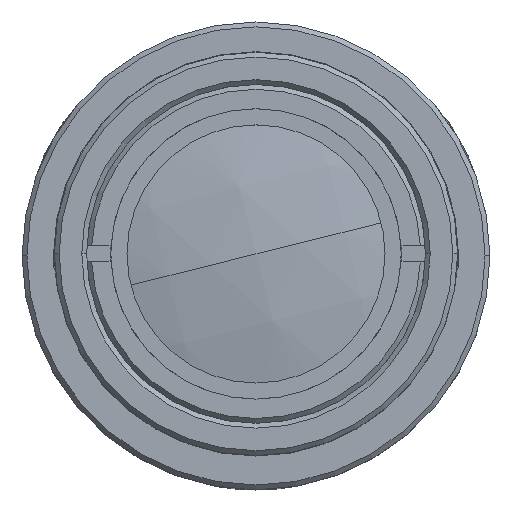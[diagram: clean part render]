
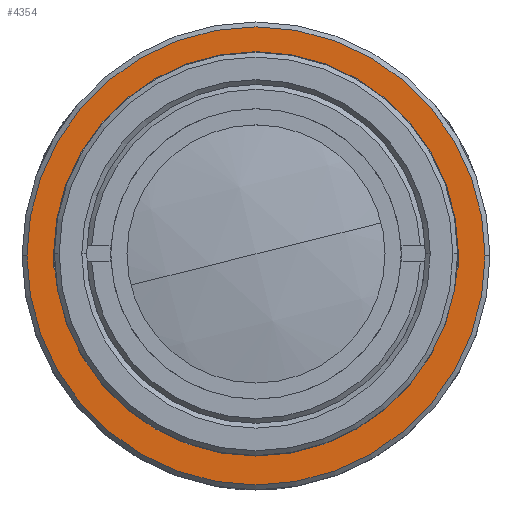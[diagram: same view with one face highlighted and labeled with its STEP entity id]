
A CAD part, top view. The second image highlights one B-rep face of the part: STEP entity #4354.
In plain terms, the highlighted planar face has unit normal (0, 0, 1).
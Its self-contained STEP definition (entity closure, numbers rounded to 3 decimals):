
#2587 = EDGE_CURVE('',#2588,#2590,#2592,.T.);
#2588 = VERTEX_POINT('',#2589);
#2589 = CARTESIAN_POINT('',(14.2,0.,24.026));
#2590 = VERTEX_POINT('',#2591);
#2591 = CARTESIAN_POINT('',(-14.2,0.,24.026));
#2592 = SURFACE_CURVE('',#2593,(#2598,#2610),.PCURVE_S1.);
#2593 = CIRCLE('',#2594,14.2);
#2594 = AXIS2_PLACEMENT_3D('',#2595,#2596,#2597);
#2595 = CARTESIAN_POINT('',(0.,0.,24.026));
#2596 = DIRECTION('',(0.,-0.,1.));
#2597 = DIRECTION('',(-1.,0.,0.));
#2598 = PCURVE('',#2599,#2604);
#2599 = CONICAL_SURFACE('',#2600,14.2,0.785);
#2600 = AXIS2_PLACEMENT_3D('',#2601,#2602,#2603);
#2601 = CARTESIAN_POINT('',(0.,0.,24.026));
#2602 = DIRECTION('',(0.,0.,-1.));
#2603 = DIRECTION('',(-1.,0.,0.));
#2604 = DEFINITIONAL_REPRESENTATION('',(#2605),#2609);
#2605 = LINE('',#2606,#2607);
#2606 = CARTESIAN_POINT('',(6.283,0.));
#2607 = VECTOR('',#2608,1.);
#2608 = DIRECTION('',(-1.,0.));
#2609 = ( GEOMETRIC_REPRESENTATION_CONTEXT(2) 
PARAMETRIC_REPRESENTATION_CONTEXT() REPRESENTATION_CONTEXT('',''
  ) );
#2610 = PCURVE('',#2611,#2616);
#2611 = PLANE('',#2612);
#2612 = AXIS2_PLACEMENT_3D('',#2613,#2614,#2615);
#2613 = CARTESIAN_POINT('',(0.,8.,24.026));
#2614 = DIRECTION('',(0.,0.,-1.));
#2615 = DIRECTION('',(-1.,0.,-0.));
#2616 = DEFINITIONAL_REPRESENTATION('',(#2617),#2625);
#2617 = ( BOUNDED_CURVE() B_SPLINE_CURVE(2,(#2618,#2619,#2620,#2621,
#2622,#2623,#2624),.UNSPECIFIED.,.T.,.F.) B_SPLINE_CURVE_WITH_KNOTS((1,2
    ,2,2,2,1),(-2.094,0.,2.094,4.189,
6.283,8.378),.UNSPECIFIED.) CURVE() 
GEOMETRIC_REPRESENTATION_ITEM() RATIONAL_B_SPLINE_CURVE((1.,0.5,1.,0.5,
1.,0.5,1.)) REPRESENTATION_ITEM('') );
#2618 = CARTESIAN_POINT('',(14.2,-8.));
#2619 = CARTESIAN_POINT('',(14.2,-32.595));
#2620 = CARTESIAN_POINT('',(-7.1,-20.298));
#2621 = CARTESIAN_POINT('',(-28.4,-8.));
#2622 = CARTESIAN_POINT('',(-7.1,4.298));
#2623 = CARTESIAN_POINT('',(14.2,16.595));
#2624 = CARTESIAN_POINT('',(14.2,-8.));
#2625 = ( GEOMETRIC_REPRESENTATION_CONTEXT(2) 
PARAMETRIC_REPRESENTATION_CONTEXT() REPRESENTATION_CONTEXT('',''
  ) );
#2643 = CONICAL_SURFACE('',#2644,14.2,0.785);
#2644 = AXIS2_PLACEMENT_3D('',#2645,#2646,#2647);
#2645 = CARTESIAN_POINT('',(0.,0.,24.026));
#2646 = DIRECTION('',(0.,0.,-1.));
#2647 = DIRECTION('',(-1.,0.,0.));
#2706 = VERTEX_POINT('',#2707);
#2707 = CARTESIAN_POINT('',(8.3,0.,24.026));
#2714 = CONICAL_SURFACE('',#2715,8.,0.785);
#2715 = AXIS2_PLACEMENT_3D('',#2716,#2717,#2718);
#2716 = CARTESIAN_POINT('',(0.,0.,23.726));
#2717 = DIRECTION('',(0.,0.,1.));
#2718 = DIRECTION('',(1.,0.,-0.));
#2726 = CONICAL_SURFACE('',#2727,8.,0.785);
#2727 = AXIS2_PLACEMENT_3D('',#2728,#2729,#2730);
#2728 = CARTESIAN_POINT('',(0.,0.,23.726));
#2729 = DIRECTION('',(0.,0.,1.));
#2730 = DIRECTION('',(1.,0.,-0.));
#2738 = EDGE_CURVE('',#2706,#2739,#2741,.T.);
#2739 = VERTEX_POINT('',#2740);
#2740 = CARTESIAN_POINT('',(-8.3,0.,24.026));
#2741 = SURFACE_CURVE('',#2742,(#2747,#2754),.PCURVE_S1.);
#2742 = CIRCLE('',#2743,8.3);
#2743 = AXIS2_PLACEMENT_3D('',#2744,#2745,#2746);
#2744 = CARTESIAN_POINT('',(0.,0.,24.026));
#2745 = DIRECTION('',(0.,0.,-1.));
#2746 = DIRECTION('',(-1.,0.,0.));
#2747 = PCURVE('',#2714,#2748);
#2748 = DEFINITIONAL_REPRESENTATION('',(#2749),#2753);
#2749 = LINE('',#2750,#2751);
#2750 = CARTESIAN_POINT('',(9.425,0.3));
#2751 = VECTOR('',#2752,1.);
#2752 = DIRECTION('',(-1.,0.));
#2753 = ( GEOMETRIC_REPRESENTATION_CONTEXT(2) 
PARAMETRIC_REPRESENTATION_CONTEXT() REPRESENTATION_CONTEXT('',''
  ) );
#2754 = PCURVE('',#2611,#2755);
#2755 = DEFINITIONAL_REPRESENTATION('',(#2756),#2760);
#2756 = CIRCLE('',#2757,8.3);
#2757 = AXIS2_PLACEMENT_2D('',#2758,#2759);
#2758 = CARTESIAN_POINT('',(0.,-8.));
#2759 = DIRECTION('',(1.,0.));
#2760 = ( GEOMETRIC_REPRESENTATION_CONTEXT(2) 
PARAMETRIC_REPRESENTATION_CONTEXT() REPRESENTATION_CONTEXT('',''
  ) );
#4354 = ADVANCED_FACE('',(#4355,#4380),#2611,.F.);
#4355 = FACE_BOUND('',#4356,.T.);
#4356 = EDGE_LOOP('',(#4357,#4358));
#4357 = ORIENTED_EDGE('',*,*,#2738,.T.);
#4358 = ORIENTED_EDGE('',*,*,#4359,.T.);
#4359 = EDGE_CURVE('',#2739,#2706,#4360,.T.);
#4360 = SURFACE_CURVE('',#4361,(#4366,#4373),.PCURVE_S1.);
#4361 = CIRCLE('',#4362,8.3);
#4362 = AXIS2_PLACEMENT_3D('',#4363,#4364,#4365);
#4363 = CARTESIAN_POINT('',(0.,0.,24.026));
#4364 = DIRECTION('',(0.,0.,-1.));
#4365 = DIRECTION('',(-1.,0.,0.));
#4366 = PCURVE('',#2611,#4367);
#4367 = DEFINITIONAL_REPRESENTATION('',(#4368),#4372);
#4368 = CIRCLE('',#4369,8.3);
#4369 = AXIS2_PLACEMENT_2D('',#4370,#4371);
#4370 = CARTESIAN_POINT('',(0.,-8.));
#4371 = DIRECTION('',(1.,0.));
#4372 = ( GEOMETRIC_REPRESENTATION_CONTEXT(2) 
PARAMETRIC_REPRESENTATION_CONTEXT() REPRESENTATION_CONTEXT('',''
  ) );
#4373 = PCURVE('',#2726,#4374);
#4374 = DEFINITIONAL_REPRESENTATION('',(#4375),#4379);
#4375 = LINE('',#4376,#4377);
#4376 = CARTESIAN_POINT('',(3.142,0.3));
#4377 = VECTOR('',#4378,1.);
#4378 = DIRECTION('',(-1.,0.));
#4379 = ( GEOMETRIC_REPRESENTATION_CONTEXT(2) 
PARAMETRIC_REPRESENTATION_CONTEXT() REPRESENTATION_CONTEXT('',''
  ) );
#4380 = FACE_BOUND('',#4381,.T.);
#4381 = EDGE_LOOP('',(#4382,#4408));
#4382 = ORIENTED_EDGE('',*,*,#4383,.T.);
#4383 = EDGE_CURVE('',#2590,#2588,#4384,.T.);
#4384 = SURFACE_CURVE('',#4385,(#4390,#4401),.PCURVE_S1.);
#4385 = CIRCLE('',#4386,14.2);
#4386 = AXIS2_PLACEMENT_3D('',#4387,#4388,#4389);
#4387 = CARTESIAN_POINT('',(0.,0.,24.026));
#4388 = DIRECTION('',(0.,-0.,1.));
#4389 = DIRECTION('',(-1.,0.,0.));
#4390 = PCURVE('',#2611,#4391);
#4391 = DEFINITIONAL_REPRESENTATION('',(#4392),#4400);
#4392 = ( BOUNDED_CURVE() B_SPLINE_CURVE(2,(#4393,#4394,#4395,#4396,
#4397,#4398,#4399),.UNSPECIFIED.,.T.,.F.) B_SPLINE_CURVE_WITH_KNOTS((1,2
    ,2,2,2,1),(-2.094,0.,2.094,4.189,
6.283,8.378),.UNSPECIFIED.) CURVE() 
GEOMETRIC_REPRESENTATION_ITEM() RATIONAL_B_SPLINE_CURVE((1.,0.5,1.,0.5,
1.,0.5,1.)) REPRESENTATION_ITEM('') );
#4393 = CARTESIAN_POINT('',(14.2,-8.));
#4394 = CARTESIAN_POINT('',(14.2,-32.595));
#4395 = CARTESIAN_POINT('',(-7.1,-20.298));
#4396 = CARTESIAN_POINT('',(-28.4,-8.));
#4397 = CARTESIAN_POINT('',(-7.1,4.298));
#4398 = CARTESIAN_POINT('',(14.2,16.595));
#4399 = CARTESIAN_POINT('',(14.2,-8.));
#4400 = ( GEOMETRIC_REPRESENTATION_CONTEXT(2) 
PARAMETRIC_REPRESENTATION_CONTEXT() REPRESENTATION_CONTEXT('',''
  ) );
#4401 = PCURVE('',#2643,#4402);
#4402 = DEFINITIONAL_REPRESENTATION('',(#4403),#4407);
#4403 = LINE('',#4404,#4405);
#4404 = CARTESIAN_POINT('',(6.283,0.));
#4405 = VECTOR('',#4406,1.);
#4406 = DIRECTION('',(-1.,0.));
#4407 = ( GEOMETRIC_REPRESENTATION_CONTEXT(2) 
PARAMETRIC_REPRESENTATION_CONTEXT() REPRESENTATION_CONTEXT('',''
  ) );
#4408 = ORIENTED_EDGE('',*,*,#2587,.T.);
